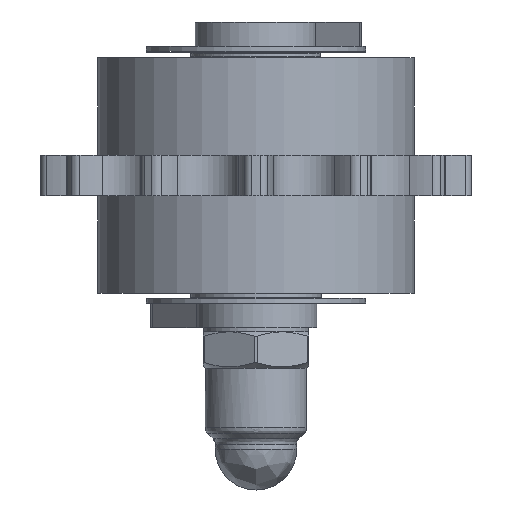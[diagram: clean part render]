
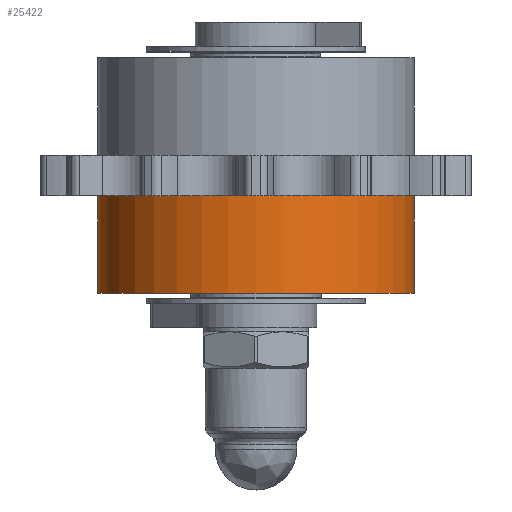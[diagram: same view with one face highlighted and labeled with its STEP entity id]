
A CAD part, left-side view. The second image highlights one B-rep face of the part: STEP entity #25422.
In plain terms, the highlighted cylindrical face has radius 19.5 mm (diameter 39 mm), a full revolution.
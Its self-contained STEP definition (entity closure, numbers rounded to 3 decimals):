
#4907 = DIRECTION ( 'NONE',  ( 0., 1., 0. ) ) ;
#6004 = AXIS2_PLACEMENT_3D ( 'NONE', #25013, #35292, #14270 ) ;
#7428 = AXIS2_PLACEMENT_3D ( 'NONE', #7535, #21403, #17586 ) ;
#7535 = CARTESIAN_POINT ( 'NONE',  ( 0., -30.2, 0. ) ) ;
#8665 = EDGE_CURVE ( 'NONE', #21868, #21868, #28772, .T. ) ;
#12129 = ORIENTED_EDGE ( 'NONE', *, *, #42156, .F. ) ;
#12394 = FACE_OUTER_BOUND ( 'NONE', #30675, .T. ) ;
#14034 = CARTESIAN_POINT ( 'NONE',  ( 0., -18.2, -19.5 ) ) ;
#14270 = DIRECTION ( 'NONE',  ( 0., 0., -1. ) ) ;
#17586 = DIRECTION ( 'NONE',  ( 0., 0., -1. ) ) ;
#18266 = CIRCLE ( 'NONE', #28900, 19.5 ) ;
#19287 = CARTESIAN_POINT ( 'NONE',  ( 0., -18.2, 0. ) ) ;
#19503 = DIRECTION ( 'NONE',  ( 0., 0., -1. ) ) ;
#21403 = DIRECTION ( 'NONE',  ( 0., 1., 0. ) ) ;
#21868 = VERTEX_POINT ( 'NONE', #43823 ) ;
#25013 = CARTESIAN_POINT ( 'NONE',  ( 0., -18.2, 0. ) ) ;
#25422 = ADVANCED_FACE ( 'NONE', ( #45797, #12394 ), #37691, .T. ) ;
#27567 = ORIENTED_EDGE ( 'NONE', *, *, #8665, .T. ) ;
#28772 = CIRCLE ( 'NONE', #7428, 19.5 ) ;
#28900 = AXIS2_PLACEMENT_3D ( 'NONE', #19287, #4907, #19503 ) ;
#30675 = EDGE_LOOP ( 'NONE', ( #12129 ) ) ;
#32210 = VERTEX_POINT ( 'NONE', #14034 ) ;
#35292 = DIRECTION ( 'NONE',  ( 0., -1., 0. ) ) ;
#37691 = CYLINDRICAL_SURFACE ( 'NONE', #6004, 19.5 ) ;
#42156 = EDGE_CURVE ( 'NONE', #32210, #32210, #18266, .T. ) ;
#43823 = CARTESIAN_POINT ( 'NONE',  ( 0., -30.2, -19.5 ) ) ;
#45797 = FACE_OUTER_BOUND ( 'NONE', #45898, .T. ) ;
#45898 = EDGE_LOOP ( 'NONE', ( #27567 ) ) ;
